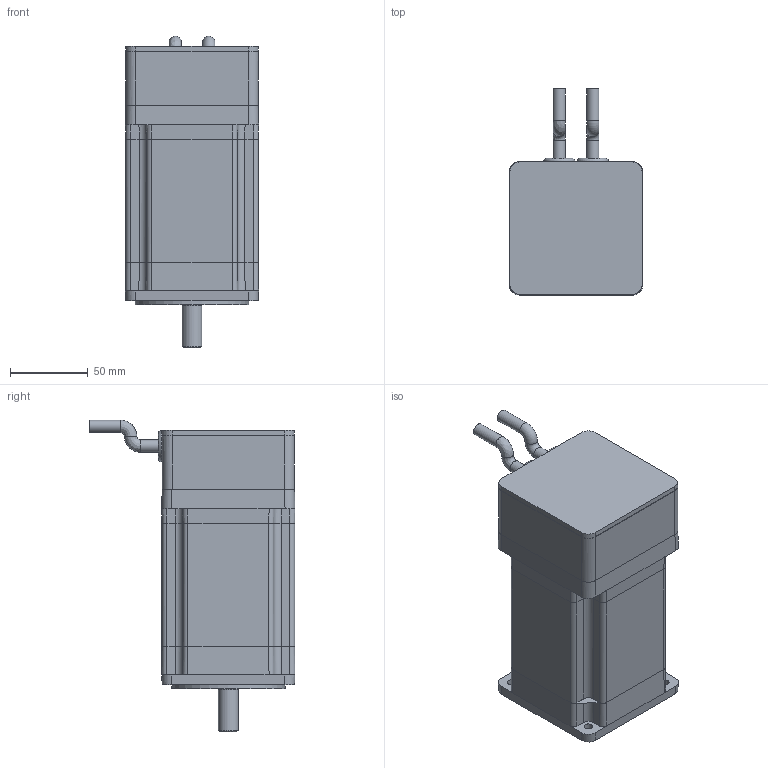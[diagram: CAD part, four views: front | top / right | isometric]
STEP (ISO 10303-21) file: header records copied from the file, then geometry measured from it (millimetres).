
FILE_DESCRIPTION((''),'2;1');
FILE_NAME('C:\CAD_work\Dummy_Modeling_Project_02-12-05\3D MODELS\BE343_CBL.stp','2005-12-20T16:04:55',('jevans'),(''),'Autodesk Inventor 10','Autodesk Inventor 10','');
FILE_SCHEMA(('AUTOMOTIVE_DESIGN { 1 0 10303 214 1 1 1 1 }'));
Length unit declared in the file: inch
Products named in the file (1): BE34_CBL
Bounding box: 85.66 x 132.36 x 200.44 mm (x, y, z)
Volume: 1110604.6 mm3; surface area: 83259.7 mm2
Topology: 4 solids, 4 shells, 214 faces, 520 edges, 323 vertices
Faces by surface type: plane 106, cylinder 84, bspline 15, cone 6, torus 3
Full cylindrical faces by diameter (mm): 2.5 x2, 7.95 x2, 12.7 x1, 14.994 x1, 15 x1, 20.32 x1, 32 x1, 32.007 x1, 35.001 x1, 36.779 x1, 37.109 x1, 41.326 x3, 73.025 x1
Entity records: 6415 total; most frequent: CARTESIAN_POINT 1476, DIRECTION 1068, ORIENTED_EDGE 940, EDGE_CURVE 470, AXIS2_PLACEMENT_3D 398, VERTEX_POINT 312, EDGE_LOOP 278, VECTOR 272
